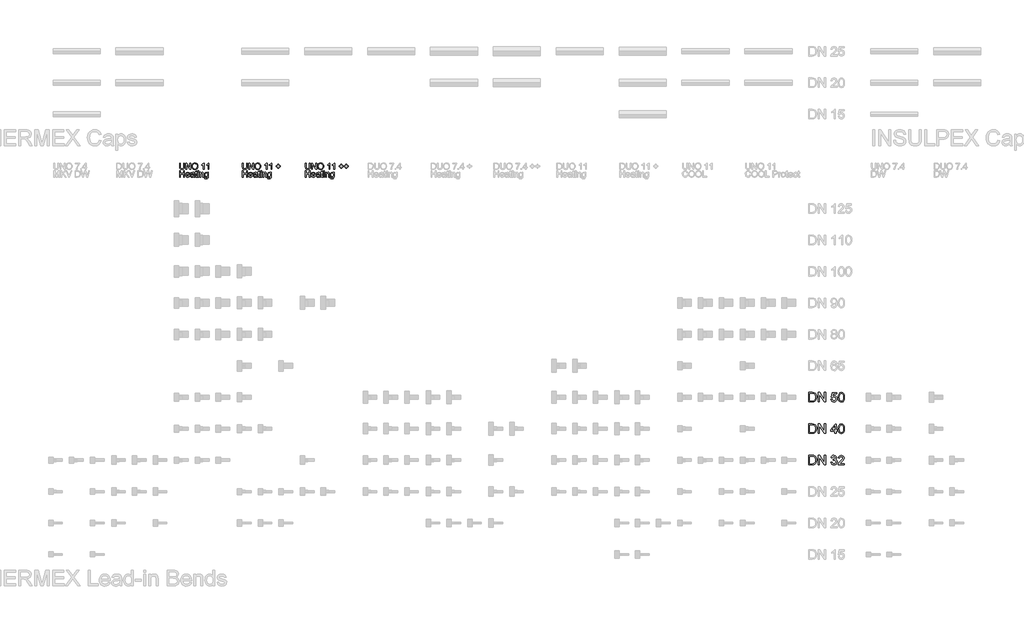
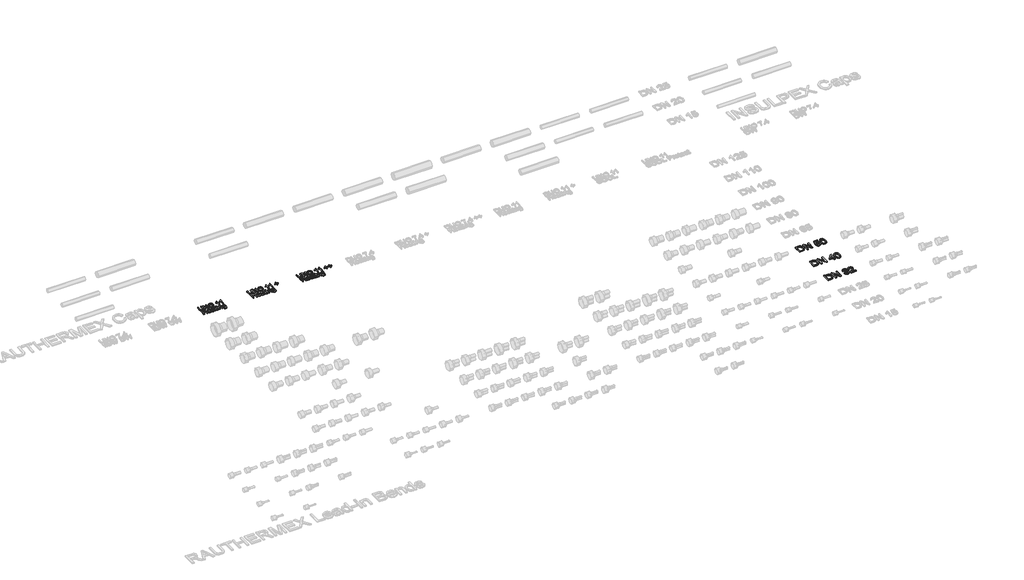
# One storey, part 15 of 44: 6 proxies.
"""IFC4 building model written with IfcOpenShell, lengths in millimetres."""

import ifcopenshell
import ifcopenshell.guid

model = None  # the IFC model being written
_history = None  # IfcOwnerHistory: only IFC2X3 demands one
_inside = {}  # id of a spatial element -> (the spatial element, [elements in it])
_under = {}  # id of a project, library or spatial element -> (it, [spatial elements below it])
_declared = {}  # id of a project -> (the project, [libraries it declares])
_typed = {}  # id of a type object -> (the type object, [elements of that type])
_made_of = {}  # id of a material, layer set ... -> (it, [elements and type objects made of it])


def new_model(schema):
    """Start an empty IFC model of exactly this schema.

    Asked for "IFC4X3", IfcOpenShell would pick the latest addendum, in which some entities
    have other attributes; the version numbers below select the first issue.
    IFC2X3 requires an IfcOwnerHistory on every rooted entity: one is made here for all.
    """
    global model, _history
    if schema == "IFC4X3":
        model = ifcopenshell.file(schema_version=(4, 3, 0, 0))
    else:
        model = ifcopenshell.file(schema=schema)
    _inside.clear()
    _under.clear()
    _declared.clear()
    _typed.clear()
    _made_of.clear()
    _history = None
    if model.schema == "IFC2X3":
        org = make("IfcOrganization", Name="unknown")
        user = make(
            "IfcPersonAndOrganization",
            ThePerson=make("IfcPerson", FamilyName="unknown"),
            TheOrganization=org,
        )
        app = make(
            "IfcApplication",
            ApplicationDeveloper=org,
            Version="unknown",
            ApplicationFullName="unknown",
            ApplicationIdentifier="unknown",
        )
        _history = make(
            "IfcOwnerHistory",
            OwningUser=user,
            OwningApplication=app,
            ChangeAction="ADDED",
            CreationDate=0,
        )
    return model


def make(cls, **values):
    """One entity of the class cls with the attributes given. An attribute that is None is left unset."""
    return model.create_entity(
        cls, **{name: value for name, value in values.items() if value is not None}
    )


def rooted(cls, **values):
    """An entity with a GlobalId (a new one), such as an element, a storey or a relation."""
    return make(cls, GlobalId=ifcopenshell.guid.new(), OwnerHistory=_history, **values)


def si_unit(unit_type, name, prefix=None):
    """IfcSIUnit, for example si_unit("LENGTHUNIT", "METRE", prefix="MILLI")."""
    return make("IfcSIUnit", UnitType=unit_type, Prefix=prefix, Name=name)


def assignment(units):
    """IfcUnitAssignment: the units of a project."""
    return None if units is None else make("IfcUnitAssignment", Units=units)


def point(xyz):
    """IfcCartesianPoint."""
    return None if xyz is None else make("IfcCartesianPoint", Coordinates=xyz)


def direction(xyz):
    """IfcDirection."""
    return None if xyz is None else make("IfcDirection", DirectionRatios=xyz)


def frame(location, z_axis=None, x_axis=None):
    """IfcAxis2Placement3D, a coordinate frame: its origin and axes. An axis left out is left unset."""
    return make(
        "IfcAxis2Placement3D",
        Location=point(location),
        Axis=direction(z_axis),
        RefDirection=direction(x_axis),
    )


def origin():
    """The frame at (0, 0, 0) with its axes left unset."""
    return frame((0.0, 0.0, 0.0))


def origin_with_axes():
    """The frame at (0, 0, 0) with the z axis (0, 0, 1) and the x axis (1, 0, 0) written out."""
    return frame((0.0, 0.0, 0.0), z_axis=(0.0, 0.0, 1.0), x_axis=(1.0, 0.0, 0.0))


def place(relative_to, where):
    """IfcLocalPlacement: puts the frame where relative to a parent placement (None: the world)."""
    return make(
        "IfcLocalPlacement", PlacementRelTo=relative_to, RelativePlacement=where
    )


def context(
    kind, dimensions, precision=None, world=None, true_north=None, identifier=None
):
    """IfcGeometricRepresentationContext, for example the 3D "Model" context."""
    return make(
        "IfcGeometricRepresentationContext",
        ContextIdentifier=identifier,
        ContextType=kind,
        CoordinateSpaceDimension=dimensions,
        Precision=precision,
        WorldCoordinateSystem=world,
        TrueNorth=true_north,
    )


def project(units=None, contexts=None):
    """IfcProject with its units and contexts."""
    return rooted(
        "IfcProject",
        Name="project",
        RepresentationContexts=contexts,
        UnitsInContext=assignment(units),
    )


def spatial(cls, under=None, at=None, **own):
    """A site, building, storey or space (cls), placed at a placement, below another one or the project."""
    s = rooted(cls, ObjectPlacement=at, **own)
    if under is not None:
        _under.setdefault(under.id(), (under, []))[1].append(s)
    return s


def polyline(points):
    """IfcPolyline through the points."""
    return make("IfcPolyline", Points=[point(p) for p in points])


def outline(outer, holes=None, kind="AREA"):
    """IfcArbitraryClosedProfileDef: a profile drawn as a closed curve; with holes, ...WithVoids."""
    if holes is None:
        return make("IfcArbitraryClosedProfileDef", ProfileType=kind, OuterCurve=outer)
    return make(
        "IfcArbitraryProfileDefWithVoids",
        ProfileType=kind,
        OuterCurve=outer,
        InnerCurves=holes,
    )


def extrude(swept, where, along, depth):
    """IfcExtrudedAreaSolid: the profile swept, set in the frame where, extruded along a direction by depth."""
    return make(
        "IfcExtrudedAreaSolid",
        SweptArea=swept,
        Position=where,
        ExtrudedDirection=direction(along),
        Depth=depth,
    )


def shape(context_of_items, identifier, shape_type, items):
    """IfcShapeRepresentation: the items that make up one representation, for example the "Body"."""
    return make(
        "IfcShapeRepresentation",
        ContextOfItems=context_of_items,
        RepresentationIdentifier=identifier,
        RepresentationType=shape_type,
        Items=items,
    )


def made_of(thing, what):
    """Note that an element or type object is made of a material, layer set ...; save() writes the relation."""
    if what is not None:
        _made_of.setdefault(what.id(), (what, []))[1].append(thing)
    return thing


def element(
    cls,
    number,
    at=None,
    inside=None,
    cuts=None,
    type_object=None,
    material=None,
    context=None,
    identifier="Body",
    shape_type=None,
    held_by="IfcProductDefinitionShape",
    body=None,
    shapes=None,
    **own,
):
    """One element of the class cls, such as IfcWall. Its Tag is "e" and its number.

    at: its placement. inside: the storey or other place that contains it. cuts: it is an
    opening in that element (IfcRelVoidsElement). A single representation is given by context,
    identifier, shape_type and body (its items); several are given by shapes. held_by: the class
    of the entity that holds the representations. save() writes the other relations.
    """
    e = rooted(cls, Tag="e%d" % number, ObjectPlacement=at, **own)
    if body is not None:
        shapes = [shape(context, identifier, shape_type, body)]
    if shapes is not None:
        e.Representation = make(held_by, Representations=shapes)
    if inside is not None:
        _inside.setdefault(inside.id(), (inside, []))[1].append(e)
    if cuts is not None:
        rooted(
            "IfcRelVoidsElement", RelatingBuildingElement=cuts, RelatedOpeningElement=e
        )
    if type_object is not None:
        _typed.setdefault(type_object.id(), (type_object, []))[1].append(e)
    return made_of(e, material)


def aggregate(whole, parts):
    """IfcRelAggregates: a whole, such as a stair, and the parts it consists of."""
    return rooted("IfcRelAggregates", RelatingObject=whole, RelatedObjects=parts)


def save(model, path):
    """Write the relations noted so far, then the file.

    IfcRelAggregates (storeys below a building ...), IfcRelContainedInSpatialStructure (elements
    in a storey), IfcRelDefinesByType, IfcRelAssociatesMaterial and IfcRelDeclares: one each for
    every whole, place, type object, material and project.
    """
    for whole, parts in _under.values():
        aggregate(whole, parts)
    for where, things in _inside.values():
        rooted(
            "IfcRelContainedInSpatialStructure",
            RelatedElements=things,
            RelatingStructure=where,
        )
    for kind, things in _typed.values():
        rooted("IfcRelDefinesByType", RelatedObjects=things, RelatingType=kind)
    for what, things in _made_of.values():
        rooted("IfcRelAssociatesMaterial", RelatedObjects=things, RelatingMaterial=what)
    for by, libraries in _declared.values():
        rooted("IfcRelDeclares", RelatingContext=by, RelatedDefinitions=libraries)
    model.write(path)


model = new_model("IFC4")

# Units and contexts
model_context = context("Model", 3, world=origin())
ifc_project = project(units=[si_unit("LENGTHUNIT", "METRE", prefix="MILLI")], contexts=[model_context])

# Site, building, storey
site = spatial("IfcSite", under=ifc_project)
building = spatial("IfcBuilding", under=site)
storey = spatial("IfcBuildingStorey", under=building, Name="REHAU Starting view", Elevation=0.0)

# Proxies
placement = place(None, origin())
element("IfcBuildingElementProxy", 1, Name="100", ObjectType="100", at=placement, inside=storey, context=model_context, shape_type="SweptSolid", body=[
    extrude(outline(polyline([(5076.9118625, 13222.431128), (5089.4689012, 13222.431128), (5089.4689012, 13164.477451), (5086.0598614, 13140.4547567), (5073.7726028, 13125.9847316), (5063.5086951, 13121.8000739), (5050.4734097, 13120.405188), (5027.529836, 13125.2612303), (5019.8901532, 13131.2055902), (5014.8011189, 13139.3265853), (5010.9874089, 13164.477451), (5010.9874089, 13222.431128), (5023.5444477, 13222.431128), (5023.5444477, 13164.9189094), (5026.0215198, 13145.7767829), (5034.5318566, 13136.2976902), (5049.2961874, 13132.9622268), (5062.067824, 13134.6115644), (5070.5597667, 13139.5595772), (5075.3238385, 13149.1980855), (5076.9118625, 13164.9189094), (5076.9118625, 13222.431128)])), origin_with_axes(), (0.0, 0.0, 1.0), 20.0),
    extrude(outline(polyline([(5111.4437191, 13121.9748178), (5111.4437191, 13222.431128), (5124.8836746, 13222.431128), (5177.3681726, 13142.8459897), (5177.3681726, 13222.431128), (5189.9252114, 13222.431128), (5189.9252114, 13121.9748178), (5176.4852558, 13121.9748178), (5124.0007578, 13201.5844816), (5124.0007578, 13121.9748178), (5111.4437191, 13121.9748178)])), origin_with_axes(), (0.0, 0.0, 1.0), 20.0),
    extrude(outline(polyline([(5207.1911397, 13170.8785977), (5210.5388658, 13193.0925389), (5220.5820443, 13209.8986147), (5235.9165921, 13220.4752221), (5255.1384264, 13224.0007578), (5268.3147332, 13222.3452889), (5280.1298766, 13217.3788819), (5289.9400631, 13209.4510249), (5297.1014993, 13198.9112058), (5301.479295, 13186.2683279), (5302.9385603, 13172.0312947), (5301.402653, 13157.6041891), (5296.794931, 13144.7835015), (5289.369846, 13134.2252883), (5279.3818499, 13126.5856055), (5267.667874, 13121.9502924), (5255.06485, 13120.405188), (5241.6862081, 13122.1127736), (5229.8036197, 13127.2355304), (5220.0179586, 13135.3105402), (5212.9300988, 13145.8748848), (5207.1911397, 13170.8785977)]), holes=[polyline([(5219.7481785, 13170.7559704), (5222.2589731, 13155.0412778), (5229.7913569, 13143.0667189), (5241.1129253, 13135.4883498), (5254.9912736, 13132.9622268), (5269.071957, 13135.5128753), (5280.4119195, 13143.1648208), (5287.889121, 13155.5072617), (5290.3815215, 13172.1293965), (5286.1140904, 13192.8534156), (5273.6428907, 13206.575414), (5255.2120028, 13211.4437191), (5241.7046022, 13209.0984714), (5230.2205526, 13202.0627282), (5222.366272, 13189.5455433), (5219.7481785, 13170.7559704)])]), origin_with_axes(), (0.0, 0.0, 1.0), 20.0),
    extrude(outline(polyline([(5401.8252406, 13121.9748178), (5389.2682018, 13121.9748178), (5389.2682018, 13200.2601064), (5377.3733507, 13191.7865578), (5364.1541243, 13185.4467247), (5364.1541243, 13197.3170505), (5382.5604868, 13209.0647488), (5393.7318367, 13222.431128), (5401.8252406, 13222.431128), (5401.8252406, 13121.9748178)])), origin_with_axes(), (0.0, 0.0, 1.0), 20.0),
    extrude(outline(polyline([(5478.7371031, 13121.9748178), (5466.1800643, 13121.9748178), (5466.1800643, 13200.2601064), (5454.2852131, 13191.7865578), (5441.0659868, 13185.4467247), (5441.0659868, 13197.3170505), (5459.4723492, 13209.0647488), (5470.6436992, 13222.431128), (5478.7371031, 13222.431128), (5478.7371031, 13121.9748178)])), origin_with_axes(), (0.0, 0.0, 1.0), 20.0),
    extrude(outline(polyline([(5010.9874089, 13000.0), (5010.9874089, 13100.4563101), (5023.5444477, 13100.4563101), (5023.5444477, 13059.6459342), (5076.9118625, 13059.6459342), (5076.9118625, 13100.4563101), (5089.4689012, 13100.4563101), (5089.4689012, 13000.0), (5076.9118625, 13000.0), (5076.9118625, 13047.0888954), (5023.5444477, 13047.0888954), (5023.5444477, 13000.0), (5010.9874089, 13000.0)])), origin_with_axes(), (0.0, 0.0, 1.0), 20.0),
    extrude(outline(polyline([(5161.5247213, 13021.9748178), (5173.8365055, 13020.405188), (5169.4004617, 13011.1284304), (5162.321799, 13004.1938547), (5152.7599328, 12999.8712413), (5140.8742787, 12998.4303702), (5126.1406048, 13000.9166393), (5114.803708, 13008.3754468), (5107.5748268, 13020.3224146), (5105.1651997, 13036.2731647), (5107.5993522, 13052.7604095), (5114.9018098, 13065.0905877), (5126.0854225, 13072.7793214), (5140.1630402, 13075.3422326), (5153.8022651, 13072.7854527), (5164.7007692, 13065.1151131), (5171.846877, 13052.8094604), (5174.2289129, 13036.3467411), (5174.1553365, 13032.9622268), (5117.7222385, 13032.9622268), (5119.8958079, 13023.5628418), (5124.9449883, 13016.6527916), (5132.2321175, 13012.4037546), (5141.1195333, 13010.9874089), (5153.4313175, 13013.6116338), (5161.5247213, 13021.9748178)]), holes=[polyline([(5117.7222385, 13045.5192655), (5161.6718741, 13045.5192655), (5156.6441535, 13056.8990819), (5149.3233018, 13061.3136659), (5140.1139892, 13062.7851938), (5124.6506827, 13058.088567), (5119.7854433, 13052.5979283), (5117.7222385, 13045.5192655)])]), origin_with_axes(), (0.0, 0.0, 1.0), 20.0),
    extrude(outline(polyline([(5233.8748471, 13009.4177791), (5221.697953, 13000.9074423), (5208.2457347, 12998.4303702), (5197.7519008, 12999.9202922), (5190.0110505, 13004.3900585), (5185.2377816, 13011.1774813), (5183.646692, 13019.6203731), (5186.0501877, 13029.5531869), (5192.3654953, 13036.7636741), (5201.157875, 13040.8839524), (5212.0226566, 13042.7724133), (5233.8012707, 13047.0888954), (5233.8748471, 13049.8847985), (5230.4167563, 13059.1554248), (5216.5353424, 13062.7851938), (5203.8311508, 13060.3694354), (5197.7733606, 13051.7977849), (5185.2163218, 13053.3674148), (5190.6487126, 13065.6301479), (5201.5870706, 13072.8161096), (5218.1540231, 13075.3422326), (5233.372075, 13073.1104152), (5241.968251, 13067.5063461), (5245.8187492, 13058.9837466), (5246.4318858, 13047.9963376), (5246.4318858, 13032.3736156), (5247.069548, 13010.5582133), (5249.5711455, 13000.0), (5237.0141068, 13000.0), (5233.8748471, 13009.4177791)]), holes=[polyline([(5233.8748471, 13034.5318566), (5213.6168119, 13030.6813584), (5202.8133439, 13028.6457447), (5197.9205134, 13025.3348067), (5196.2037308, 13020.5032899), (5199.9438644, 13013.7097357), (5210.9190106, 13010.9874089), (5223.6232021, 13013.9917785), (5231.8147079, 13021.2635793), (5233.8012707, 13030.975664), (5233.8748471, 13034.5318566)])]), origin_with_axes(), (0.0, 0.0, 1.0), 20.0),
    extrude(outline(polyline([(5290.3815215, 13010.4723741), (5291.9511514, 12999.632118), (5282.5578978, 12998.4303702), (5272.0364727, 13000.5150348), (5266.7880229, 13005.9842138), (5265.267444, 13020.2335097), (5265.267444, 13061.215564), (5255.8496649, 13061.215564), (5255.8496649, 13073.7726028), (5265.267444, 13073.7726028), (5265.267444, 13091.7007187), (5277.8244828, 13099.082884), (5277.8244828, 13073.7726028), (5290.3815215, 13073.7726028), (5290.3815215, 13061.215564), (5277.8244828, 13061.215564), (5277.8244828, 13020.6013917), (5278.4866703, 13014.1266686), (5280.6326487, 13011.8335375), (5284.9123425, 13010.9874089), (5290.3815215, 13010.4723741)])), origin_with_axes(), (0.0, 0.0, 1.0), 20.0),
    extrude(outline(polyline([(5302.9385603, 13087.8992714), (5302.9385603, 13100.4563101), (5315.4955991, 13100.4563101), (5315.4955991, 13087.8992714), (5302.9385603, 13087.8992714)])), origin_with_axes(), (0.0, 0.0, 1.0), 20.0),
    extrude(outline(polyline([(5302.9385603, 13000.0), (5302.9385603, 13073.7726028), (5315.4955991, 13073.7726028), (5315.4955991, 13000.0), (5302.9385603, 13000.0)])), origin_with_axes(), (0.0, 0.0, 1.0), 20.0),
    extrude(outline(polyline([(5334.3311572, 13000.0), (5334.3311572, 13073.7726028), (5346.888196, 13073.7726028), (5346.888196, 13063.4719069), (5356.4899161, 13072.3746512), (5369.5987778, 13075.3422326), (5381.4568408, 13072.9509996), (5389.5502447, 13066.6724803), (5393.3149038, 13057.4386422), (5393.9770914, 13045.2985363), (5393.9770914, 13000.0), (5381.4200526, 13000.0), (5381.4200526, 13043.6062792), (5379.9730501, 13054.7163154), (5374.8594904, 13060.5901646), (5366.2387889, 13062.7851938), (5352.6148924, 13057.8555751), (5348.3198701, 13050.712533), (5346.888196, 13039.1426443), (5346.888196, 13000.0), (5334.3311572, 13000.0)])), origin_with_axes(), (0.0, 0.0, 1.0), 20.0),
    extrude(outline(polyline([(5408.10376, 12993.7214806), (5420.6607988, 12992.1518508), (5424.7320262, 12985.5299749), (5436.9211829, 12982.7340717), (5449.7725273, 12985.8978569), (5455.9038939, 12994.7760757), (5456.7622852, 13009.4177791), (5447.9208546, 13002.3544448), (5437.1419121, 13000.0), (5424.1955316, 13002.7407209), (5414.5416949, 13010.9628835), (5408.5360213, 13023.0171502), (5406.5341301, 13037.2541834), (5410.127111, 13056.7151409), (5420.5259087, 13070.4861903), (5436.5287755, 13075.3422326), (5447.7307822, 13072.5953804), (5456.7622852, 13064.3548237), (5456.7622852, 13073.7726028), (5469.319324, 13073.7726028), (5469.319324, 13010.0799667), (5465.8857587, 12985.6893904), (5455.0087144, 12974.3463622), (5436.6759283, 12970.1770329), (5424.9926092, 12971.6454952), (5415.7924937, 12976.0508821), (5409.8910533, 12983.4054563), (5408.10376, 12993.7214806)]), holes=[polyline([(5419.0911689, 13038.1125747), (5420.4308725, 13026.5948026), (5424.4499833, 13018.6761426), (5430.4924451, 13014.0868147), (5437.9022016, 13012.5570388), (5445.2567758, 13014.0776177), (5451.3298944, 13018.6393544), (5455.4041875, 13026.4568468), (5456.7622852, 13037.7446927), (5455.3643336, 13048.6309341), (5451.1704789, 13056.4698863), (5445.0084555, 13061.2063669), (5437.7059979, 13062.7851938), (5430.5353646, 13061.2308924), (5424.5235597, 13056.5679881), (5420.4492666, 13048.8455319), (5419.0911689, 13038.1125747)])]), origin_with_axes(), (0.0, 0.0, 1.0), 20.0),
])
element("IfcBuildingElementProxy", 2, Name="100", ObjectType="100", at=placement, inside=storey, context=model_context, shape_type="SweptSolid", body=[
    extrude(outline(polyline([(6076.9118625, 13222.431128), (6089.4689012, 13222.431128), (6089.4689012, 13164.477451), (6086.0598614, 13140.4547567), (6073.7726028, 13125.9847316), (6063.5086951, 13121.8000739), (6050.4734097, 13120.405188), (6027.529836, 13125.2612303), (6019.8901532, 13131.2055902), (6014.8011189, 13139.3265853), (6010.9874089, 13164.477451), (6010.9874089, 13222.431128), (6023.5444477, 13222.431128), (6023.5444477, 13164.9189094), (6026.0215198, 13145.7767829), (6034.5318566, 13136.2976902), (6049.2961874, 13132.9622268), (6062.067824, 13134.6115644), (6070.5597667, 13139.5595772), (6075.3238385, 13149.1980855), (6076.9118625, 13164.9189094), (6076.9118625, 13222.431128)])), origin_with_axes(), (0.0, 0.0, 1.0), 20.0),
    extrude(outline(polyline([(6111.4437191, 13121.9748178), (6111.4437191, 13222.431128), (6124.8836746, 13222.431128), (6177.3681726, 13142.8459897), (6177.3681726, 13222.431128), (6189.9252114, 13222.431128), (6189.9252114, 13121.9748178), (6176.4852558, 13121.9748178), (6124.0007578, 13201.5844816), (6124.0007578, 13121.9748178), (6111.4437191, 13121.9748178)])), origin_with_axes(), (0.0, 0.0, 1.0), 20.0),
    extrude(outline(polyline([(6207.1911397, 13170.8785977), (6210.5388658, 13193.0925389), (6220.5820443, 13209.8986147), (6235.9165921, 13220.4752221), (6255.1384264, 13224.0007578), (6268.3147332, 13222.3452889), (6280.1298766, 13217.3788819), (6289.9400631, 13209.4510249), (6297.1014993, 13198.9112058), (6301.479295, 13186.2683279), (6302.9385603, 13172.0312947), (6301.402653, 13157.6041891), (6296.794931, 13144.7835015), (6289.369846, 13134.2252883), (6279.3818499, 13126.5856055), (6267.667874, 13121.9502924), (6255.06485, 13120.405188), (6241.6862081, 13122.1127736), (6229.8036197, 13127.2355304), (6220.0179586, 13135.3105402), (6212.9300988, 13145.8748848), (6207.1911397, 13170.8785977)]), holes=[polyline([(6219.7481785, 13170.7559704), (6222.2589731, 13155.0412778), (6229.7913569, 13143.0667189), (6241.1129253, 13135.4883498), (6254.9912736, 13132.9622268), (6269.071957, 13135.5128753), (6280.4119195, 13143.1648208), (6287.889121, 13155.5072617), (6290.3815215, 13172.1293965), (6286.1140904, 13192.8534156), (6273.6428907, 13206.575414), (6255.2120028, 13211.4437191), (6241.7046022, 13209.0984714), (6230.2205526, 13202.0627282), (6222.366272, 13189.5455433), (6219.7481785, 13170.7559704)])]), origin_with_axes(), (0.0, 0.0, 1.0), 20.0),
    extrude(outline(polyline([(6401.8252406, 13121.9748178), (6389.2682018, 13121.9748178), (6389.2682018, 13200.2601064), (6377.3733507, 13191.7865578), (6364.1541243, 13185.4467247), (6364.1541243, 13197.3170505), (6382.5604868, 13209.0647488), (6393.7318367, 13222.431128), (6401.8252406, 13222.431128), (6401.8252406, 13121.9748178)])), origin_with_axes(), (0.0, 0.0, 1.0), 20.0),
    extrude(outline(polyline([(6478.7371031, 13121.9748178), (6466.1800643, 13121.9748178), (6466.1800643, 13200.2601064), (6454.2852131, 13191.7865578), (6441.0659868, 13185.4467247), (6441.0659868, 13197.3170505), (6459.4723492, 13209.0647488), (6470.6436992, 13222.431128), (6478.7371031, 13222.431128), (6478.7371031, 13121.9748178)])), origin_with_axes(), (0.0, 0.0, 1.0), 20.0),
    extrude(outline(polyline([(6576.0541535, 13137.6711163), (6576.0541535, 13164.3548237), (6549.3704461, 13164.3548237), (6549.3704461, 13176.9118625), (6576.0541535, 13176.9118625), (6576.0541535, 13203.5955698), (6588.6111923, 13203.5955698), (6588.6111923, 13176.9118625), (6615.2948997, 13176.9118625), (6615.2948997, 13164.3548237), (6588.6111923, 13164.3548237), (6588.6111923, 13137.6711163), (6576.0541535, 13137.6711163)])), origin_with_axes(), (0.0, 0.0, 1.0), 20.0),
    extrude(outline(polyline([(6010.9874089, 13000.0), (6010.9874089, 13100.4563101), (6023.5444477, 13100.4563101), (6023.5444477, 13059.6459342), (6076.9118625, 13059.6459342), (6076.9118625, 13100.4563101), (6089.4689012, 13100.4563101), (6089.4689012, 13000.0), (6076.9118625, 13000.0), (6076.9118625, 13047.0888954), (6023.5444477, 13047.0888954), (6023.5444477, 13000.0), (6010.9874089, 13000.0)])), origin_with_axes(), (0.0, 0.0, 1.0), 20.0),
    extrude(outline(polyline([(6161.5247213, 13021.9748178), (6173.8365055, 13020.405188), (6169.4004617, 13011.1284304), (6162.321799, 13004.1938547), (6152.7599328, 12999.8712413), (6140.8742787, 12998.4303702), (6126.1406048, 13000.9166393), (6114.803708, 13008.3754468), (6107.5748268, 13020.3224146), (6105.1651997, 13036.2731647), (6107.5993522, 13052.7604095), (6114.9018098, 13065.0905877), (6126.0854225, 13072.7793214), (6140.1630402, 13075.3422326), (6153.8022651, 13072.7854527), (6164.7007692, 13065.1151131), (6171.846877, 13052.8094604), (6174.2289129, 13036.3467411), (6174.1553365, 13032.9622268), (6117.7222385, 13032.9622268), (6119.8958079, 13023.5628418), (6124.9449883, 13016.6527916), (6132.2321175, 13012.4037546), (6141.1195333, 13010.9874089), (6153.4313175, 13013.6116338), (6161.5247213, 13021.9748178)]), holes=[polyline([(6117.7222385, 13045.5192655), (6161.6718741, 13045.5192655), (6156.6441535, 13056.8990819), (6149.3233018, 13061.3136659), (6140.1139892, 13062.7851938), (6124.6506827, 13058.088567), (6119.7854433, 13052.5979283), (6117.7222385, 13045.5192655)])]), origin_with_axes(), (0.0, 0.0, 1.0), 20.0),
    extrude(outline(polyline([(6233.8748471, 13009.4177791), (6221.697953, 13000.9074423), (6208.2457347, 12998.4303702), (6197.7519008, 12999.9202922), (6190.0110505, 13004.3900585), (6185.2377816, 13011.1774813), (6183.646692, 13019.6203731), (6186.0501877, 13029.5531869), (6192.3654953, 13036.7636741), (6201.157875, 13040.8839524), (6212.0226566, 13042.7724133), (6233.8012707, 13047.0888954), (6233.8748471, 13049.8847985), (6230.4167563, 13059.1554248), (6216.5353424, 13062.7851938), (6203.8311508, 13060.3694354), (6197.7733606, 13051.7977849), (6185.2163218, 13053.3674148), (6190.6487126, 13065.6301479), (6201.5870706, 13072.8161096), (6218.1540231, 13075.3422326), (6233.372075, 13073.1104152), (6241.968251, 13067.5063461), (6245.8187492, 13058.9837466), (6246.4318858, 13047.9963376), (6246.4318858, 13032.3736156), (6247.069548, 13010.5582133), (6249.5711455, 13000.0), (6237.0141068, 13000.0), (6233.8748471, 13009.4177791)]), holes=[polyline([(6233.8748471, 13034.5318566), (6213.6168119, 13030.6813584), (6202.8133439, 13028.6457447), (6197.9205134, 13025.3348067), (6196.2037308, 13020.5032899), (6199.9438644, 13013.7097357), (6210.9190106, 13010.9874089), (6223.6232021, 13013.9917785), (6231.8147079, 13021.2635793), (6233.8012707, 13030.975664), (6233.8748471, 13034.5318566)])]), origin_with_axes(), (0.0, 0.0, 1.0), 20.0),
    extrude(outline(polyline([(6290.3815215, 13010.4723741), (6291.9511514, 12999.632118), (6282.5578978, 12998.4303702), (6272.0364727, 13000.5150348), (6266.7880229, 13005.9842138), (6265.267444, 13020.2335097), (6265.267444, 13061.215564), (6255.8496649, 13061.215564), (6255.8496649, 13073.7726028), (6265.267444, 13073.7726028), (6265.267444, 13091.7007187), (6277.8244828, 13099.082884), (6277.8244828, 13073.7726028), (6290.3815215, 13073.7726028), (6290.3815215, 13061.215564), (6277.8244828, 13061.215564), (6277.8244828, 13020.6013917), (6278.4866703, 13014.1266686), (6280.6326487, 13011.8335375), (6284.9123425, 13010.9874089), (6290.3815215, 13010.4723741)])), origin_with_axes(), (0.0, 0.0, 1.0), 20.0),
    extrude(outline(polyline([(6302.9385603, 13087.8992714), (6302.9385603, 13100.4563101), (6315.4955991, 13100.4563101), (6315.4955991, 13087.8992714), (6302.9385603, 13087.8992714)])), origin_with_axes(), (0.0, 0.0, 1.0), 20.0),
    extrude(outline(polyline([(6302.9385603, 13000.0), (6302.9385603, 13073.7726028), (6315.4955991, 13073.7726028), (6315.4955991, 13000.0), (6302.9385603, 13000.0)])), origin_with_axes(), (0.0, 0.0, 1.0), 20.0),
    extrude(outline(polyline([(6334.3311572, 13000.0), (6334.3311572, 13073.7726028), (6346.888196, 13073.7726028), (6346.888196, 13063.4719069), (6356.4899161, 13072.3746512), (6369.5987778, 13075.3422326), (6381.4568408, 13072.9509996), (6389.5502447, 13066.6724803), (6393.3149038, 13057.4386422), (6393.9770914, 13045.2985363), (6393.9770914, 13000.0), (6381.4200526, 13000.0), (6381.4200526, 13043.6062792), (6379.9730501, 13054.7163154), (6374.8594904, 13060.5901646), (6366.2387889, 13062.7851938), (6352.6148924, 13057.8555751), (6348.3198701, 13050.712533), (6346.888196, 13039.1426443), (6346.888196, 13000.0), (6334.3311572, 13000.0)])), origin_with_axes(), (0.0, 0.0, 1.0), 20.0),
    extrude(outline(polyline([(6408.10376, 12993.7214806), (6420.6607988, 12992.1518508), (6424.7320262, 12985.5299749), (6436.9211829, 12982.7340717), (6449.7725273, 12985.8978569), (6455.9038939, 12994.7760757), (6456.7622852, 13009.4177791), (6447.9208546, 13002.3544448), (6437.1419121, 13000.0), (6424.1955316, 13002.7407209), (6414.5416949, 13010.9628835), (6408.5360213, 13023.0171502), (6406.5341301, 13037.2541834), (6410.127111, 13056.7151409), (6420.5259087, 13070.4861903), (6436.5287755, 13075.3422326), (6447.7307822, 13072.5953804), (6456.7622852, 13064.3548237), (6456.7622852, 13073.7726028), (6469.319324, 13073.7726028), (6469.319324, 13010.0799667), (6465.8857587, 12985.6893904), (6455.0087144, 12974.3463622), (6436.6759283, 12970.1770329), (6424.9926092, 12971.6454952), (6415.7924937, 12976.0508821), (6409.8910533, 12983.4054563), (6408.10376, 12993.7214806)]), holes=[polyline([(6419.0911689, 13038.1125747), (6420.4308725, 13026.5948026), (6424.4499833, 13018.6761426), (6430.4924451, 13014.0868147), (6437.9022016, 13012.5570388), (6445.2567758, 13014.0776177), (6451.3298944, 13018.6393544), (6455.4041875, 13026.4568468), (6456.7622852, 13037.7446927), (6455.3643336, 13048.6309341), (6451.1704789, 13056.4698863), (6445.0084555, 13061.2063669), (6437.7059979, 13062.7851938), (6430.5353646, 13061.2308924), (6424.5235597, 13056.5679881), (6420.4492666, 13048.8455319), (6419.0911689, 13038.1125747)])]), origin_with_axes(), (0.0, 0.0, 1.0), 20.0),
])
element("IfcBuildingElementProxy", 3, Name="100", ObjectType="100", at=placement, inside=storey, context=model_context, shape_type="SweptSolid", body=[
    extrude(outline(polyline([(7076.9118625, 13222.431128), (7089.4689012, 13222.431128), (7089.4689012, 13164.477451), (7086.0598614, 13140.4547567), (7073.7726028, 13125.9847316), (7063.5086951, 13121.8000739), (7050.4734097, 13120.405188), (7027.529836, 13125.2612303), (7019.8901532, 13131.2055902), (7014.8011189, 13139.3265853), (7010.9874089, 13164.477451), (7010.9874089, 13222.431128), (7023.5444477, 13222.431128), (7023.5444477, 13164.9189094), (7026.0215198, 13145.7767829), (7034.5318566, 13136.2976902), (7049.2961874, 13132.9622268), (7062.067824, 13134.6115644), (7070.5597667, 13139.5595772), (7075.3238385, 13149.1980855), (7076.9118625, 13164.9189094), (7076.9118625, 13222.431128)])), origin_with_axes(), (0.0, 0.0, 1.0), 20.0),
    extrude(outline(polyline([(7111.4437191, 13121.9748178), (7111.4437191, 13222.431128), (7124.8836746, 13222.431128), (7177.3681726, 13142.8459897), (7177.3681726, 13222.431128), (7189.9252114, 13222.431128), (7189.9252114, 13121.9748178), (7176.4852558, 13121.9748178), (7124.0007578, 13201.5844816), (7124.0007578, 13121.9748178), (7111.4437191, 13121.9748178)])), origin_with_axes(), (0.0, 0.0, 1.0), 20.0),
    extrude(outline(polyline([(7207.1911397, 13170.8785977), (7210.5388658, 13193.0925389), (7220.5820443, 13209.8986147), (7235.9165921, 13220.4752221), (7255.1384264, 13224.0007578), (7268.3147332, 13222.3452889), (7280.1298766, 13217.3788819), (7289.9400631, 13209.4510249), (7297.1014993, 13198.9112058), (7301.479295, 13186.2683279), (7302.9385603, 13172.0312947), (7301.402653, 13157.6041891), (7296.794931, 13144.7835015), (7289.369846, 13134.2252883), (7279.3818499, 13126.5856055), (7267.667874, 13121.9502924), (7255.06485, 13120.405188), (7241.6862081, 13122.1127736), (7229.8036197, 13127.2355304), (7220.0179586, 13135.3105402), (7212.9300988, 13145.8748848), (7207.1911397, 13170.8785977)]), holes=[polyline([(7219.7481785, 13170.7559704), (7222.2589731, 13155.0412778), (7229.7913569, 13143.0667189), (7241.1129253, 13135.4883498), (7254.9912736, 13132.9622268), (7269.071957, 13135.5128753), (7280.4119195, 13143.1648208), (7287.889121, 13155.5072617), (7290.3815215, 13172.1293965), (7286.1140904, 13192.8534156), (7273.6428907, 13206.575414), (7255.2120028, 13211.4437191), (7241.7046022, 13209.0984714), (7230.2205526, 13202.0627282), (7222.366272, 13189.5455433), (7219.7481785, 13170.7559704)])]), origin_with_axes(), (0.0, 0.0, 1.0), 20.0),
    extrude(outline(polyline([(7401.8252406, 13121.9748178), (7389.2682018, 13121.9748178), (7389.2682018, 13200.2601064), (7377.3733507, 13191.7865578), (7364.1541243, 13185.4467247), (7364.1541243, 13197.3170505), (7382.5604868, 13209.0647488), (7393.7318367, 13222.431128), (7401.8252406, 13222.431128), (7401.8252406, 13121.9748178)])), origin_with_axes(), (0.0, 0.0, 1.0), 20.0),
    extrude(outline(polyline([(7478.7371031, 13121.9748178), (7466.1800643, 13121.9748178), (7466.1800643, 13200.2601064), (7454.2852131, 13191.7865578), (7441.0659868, 13185.4467247), (7441.0659868, 13197.3170505), (7459.4723492, 13209.0647488), (7470.6436992, 13222.431128), (7478.7371031, 13222.431128), (7478.7371031, 13121.9748178)])), origin_with_axes(), (0.0, 0.0, 1.0), 20.0),
    extrude(outline(polyline([(7576.0541535, 13137.6711163), (7576.0541535, 13164.3548237), (7549.3704461, 13164.3548237), (7549.3704461, 13176.9118625), (7576.0541535, 13176.9118625), (7576.0541535, 13203.5955698), (7588.6111923, 13203.5955698), (7588.6111923, 13176.9118625), (7615.2948997, 13176.9118625), (7615.2948997, 13164.3548237), (7588.6111923, 13164.3548237), (7588.6111923, 13137.6711163), (7576.0541535, 13137.6711163)])), origin_with_axes(), (0.0, 0.0, 1.0), 20.0),
    extrude(outline(polyline([(7657.6749055, 13137.6711163), (7657.6749055, 13164.3548237), (7630.9911981, 13164.3548237), (7630.9911981, 13176.9118625), (7657.6749055, 13176.9118625), (7657.6749055, 13203.5955698), (7670.2319443, 13203.5955698), (7670.2319443, 13176.9118625), (7696.9156517, 13176.9118625), (7696.9156517, 13164.3548237), (7670.2319443, 13164.3548237), (7670.2319443, 13137.6711163), (7657.6749055, 13137.6711163)])), origin_with_axes(), (0.0, 0.0, 1.0), 20.0),
    extrude(outline(polyline([(7010.9874089, 13000.0), (7010.9874089, 13100.4563101), (7023.5444477, 13100.4563101), (7023.5444477, 13059.6459342), (7076.9118625, 13059.6459342), (7076.9118625, 13100.4563101), (7089.4689012, 13100.4563101), (7089.4689012, 13000.0), (7076.9118625, 13000.0), (7076.9118625, 13047.0888954), (7023.5444477, 13047.0888954), (7023.5444477, 13000.0), (7010.9874089, 13000.0)])), origin_with_axes(), (0.0, 0.0, 1.0), 20.0),
    extrude(outline(polyline([(7161.5247213, 13021.9748178), (7173.8365055, 13020.405188), (7169.4004617, 13011.1284304), (7162.321799, 13004.1938547), (7152.7599328, 12999.8712413), (7140.8742787, 12998.4303702), (7126.1406048, 13000.9166393), (7114.803708, 13008.3754468), (7107.5748268, 13020.3224146), (7105.1651997, 13036.2731647), (7107.5993522, 13052.7604095), (7114.9018098, 13065.0905877), (7126.0854225, 13072.7793214), (7140.1630402, 13075.3422326), (7153.8022651, 13072.7854527), (7164.7007692, 13065.1151131), (7171.846877, 13052.8094604), (7174.2289129, 13036.3467411), (7174.1553365, 13032.9622268), (7117.7222385, 13032.9622268), (7119.8958079, 13023.5628418), (7124.9449883, 13016.6527916), (7132.2321175, 13012.4037546), (7141.1195333, 13010.9874089), (7153.4313175, 13013.6116338), (7161.5247213, 13021.9748178)]), holes=[polyline([(7117.7222385, 13045.5192655), (7161.6718741, 13045.5192655), (7156.6441535, 13056.8990819), (7149.3233018, 13061.3136659), (7140.1139892, 13062.7851938), (7124.6506827, 13058.088567), (7119.7854433, 13052.5979283), (7117.7222385, 13045.5192655)])]), origin_with_axes(), (0.0, 0.0, 1.0), 20.0),
    extrude(outline(polyline([(7233.8748471, 13009.4177791), (7221.697953, 13000.9074423), (7208.2457347, 12998.4303702), (7197.7519008, 12999.9202922), (7190.0110505, 13004.3900585), (7185.2377816, 13011.1774813), (7183.646692, 13019.6203731), (7186.0501877, 13029.5531869), (7192.3654953, 13036.7636741), (7201.157875, 13040.8839524), (7212.0226566, 13042.7724133), (7233.8012707, 13047.0888954), (7233.8748471, 13049.8847985), (7230.4167563, 13059.1554248), (7216.5353424, 13062.7851938), (7203.8311508, 13060.3694354), (7197.7733606, 13051.7977849), (7185.2163218, 13053.3674148), (7190.6487126, 13065.6301479), (7201.5870706, 13072.8161096), (7218.1540231, 13075.3422326), (7233.372075, 13073.1104152), (7241.968251, 13067.5063461), (7245.8187492, 13058.9837466), (7246.4318858, 13047.9963376), (7246.4318858, 13032.3736156), (7247.069548, 13010.5582133), (7249.5711455, 13000.0), (7237.0141068, 13000.0), (7233.8748471, 13009.4177791)]), holes=[polyline([(7233.8748471, 13034.5318566), (7213.6168119, 13030.6813584), (7202.8133439, 13028.6457447), (7197.9205134, 13025.3348067), (7196.2037308, 13020.5032899), (7199.9438644, 13013.7097357), (7210.9190106, 13010.9874089), (7223.6232021, 13013.9917785), (7231.8147079, 13021.2635793), (7233.8012707, 13030.975664), (7233.8748471, 13034.5318566)])]), origin_with_axes(), (0.0, 0.0, 1.0), 20.0),
    extrude(outline(polyline([(7290.3815215, 13010.4723741), (7291.9511514, 12999.632118), (7282.5578978, 12998.4303702), (7272.0364727, 13000.5150348), (7266.7880229, 13005.9842138), (7265.267444, 13020.2335097), (7265.267444, 13061.215564), (7255.8496649, 13061.215564), (7255.8496649, 13073.7726028), (7265.267444, 13073.7726028), (7265.267444, 13091.7007187), (7277.8244828, 13099.082884), (7277.8244828, 13073.7726028), (7290.3815215, 13073.7726028), (7290.3815215, 13061.215564), (7277.8244828, 13061.215564), (7277.8244828, 13020.6013917), (7278.4866703, 13014.1266686), (7280.6326487, 13011.8335375), (7284.9123425, 13010.9874089), (7290.3815215, 13010.4723741)])), origin_with_axes(), (0.0, 0.0, 1.0), 20.0),
    extrude(outline(polyline([(7302.9385603, 13087.8992714), (7302.9385603, 13100.4563101), (7315.4955991, 13100.4563101), (7315.4955991, 13087.8992714), (7302.9385603, 13087.8992714)])), origin_with_axes(), (0.0, 0.0, 1.0), 20.0),
    extrude(outline(polyline([(7302.9385603, 13000.0), (7302.9385603, 13073.7726028), (7315.4955991, 13073.7726028), (7315.4955991, 13000.0), (7302.9385603, 13000.0)])), origin_with_axes(), (0.0, 0.0, 1.0), 20.0),
    extrude(outline(polyline([(7334.3311572, 13000.0), (7334.3311572, 13073.7726028), (7346.888196, 13073.7726028), (7346.888196, 13063.4719069), (7356.4899161, 13072.3746512), (7369.5987778, 13075.3422326), (7381.4568408, 13072.9509996), (7389.5502447, 13066.6724803), (7393.3149038, 13057.4386422), (7393.9770914, 13045.2985363), (7393.9770914, 13000.0), (7381.4200526, 13000.0), (7381.4200526, 13043.6062792), (7379.9730501, 13054.7163154), (7374.8594904, 13060.5901646), (7366.2387889, 13062.7851938), (7352.6148924, 13057.8555751), (7348.3198701, 13050.712533), (7346.888196, 13039.1426443), (7346.888196, 13000.0), (7334.3311572, 13000.0)])), origin_with_axes(), (0.0, 0.0, 1.0), 20.0),
    extrude(outline(polyline([(7408.10376, 12993.7214806), (7420.6607988, 12992.1518508), (7424.7320262, 12985.5299749), (7436.9211829, 12982.7340717), (7449.7725273, 12985.8978569), (7455.9038939, 12994.7760757), (7456.7622852, 13009.4177791), (7447.9208546, 13002.3544448), (7437.1419121, 13000.0), (7424.1955316, 13002.7407209), (7414.5416949, 13010.9628835), (7408.5360213, 13023.0171502), (7406.5341301, 13037.2541834), (7410.127111, 13056.7151409), (7420.5259087, 13070.4861903), (7436.5287755, 13075.3422326), (7447.7307822, 13072.5953804), (7456.7622852, 13064.3548237), (7456.7622852, 13073.7726028), (7469.319324, 13073.7726028), (7469.319324, 13010.0799667), (7465.8857587, 12985.6893904), (7455.0087144, 12974.3463622), (7436.6759283, 12970.1770329), (7424.9926092, 12971.6454952), (7415.7924937, 12976.0508821), (7409.8910533, 12983.4054563), (7408.10376, 12993.7214806)]), holes=[polyline([(7419.0911689, 13038.1125747), (7420.4308725, 13026.5948026), (7424.4499833, 13018.6761426), (7430.4924451, 13014.0868147), (7437.9022016, 13012.5570388), (7445.2567758, 13014.0776177), (7451.3298944, 13018.6393544), (7455.4041875, 13026.4568468), (7456.7622852, 13037.7446927), (7455.3643336, 13048.6309341), (7451.1704789, 13056.4698863), (7445.0084555, 13061.2063669), (7437.7059979, 13062.7851938), (7430.5353646, 13061.2308924), (7424.5235597, 13056.5679881), (7420.4492666, 13048.8455319), (7419.0911689, 13038.1125747)])]), origin_with_axes(), (0.0, 0.0, 1.0), 20.0),
])
element("IfcBuildingElementProxy", 4, Name="150", ObjectType="150", at=placement, inside=storey, context=model_context, shape_type="SweptSolid", body=[
    extrude(outline(polyline([(15016.4811134, 8425.0), (15016.4811134, 8575.6844652), (15068.4628393, 8575.6844652), (15095.3550131, 8573.5139615), (15117.5015093, 8562.735019), (15127.9217668, 8551.2571007), (15135.343786, 8536.9832793), (15139.7859611, 8520.1894663), (15141.2666861, 8501.151573), (15137.2567724, 8470.7461261), (15126.9560765, 8448.8019651), (15113.1972899, 8435.135149), (15095.1894663, 8427.575174), (15070.9644369, 8425.0), (15016.4811134, 8425.0)]), holes=[polyline([(15035.3166715, 8443.8355582), (15068.6467803, 8443.8355582), (15092.8902038, 8446.5578849), (15106.8697196, 8454.2466186), (15118.3292437, 8472.9534181), (15122.431128, 8501.4458786), (15120.4215726, 8521.9736939), (15114.3929064, 8537.1304321), (15105.4855636, 8547.5414926), (15094.8399784, 8553.8322747), (15068.1317455, 8556.8489071), (15035.3166715, 8556.8489071), (15035.3166715, 8443.8355582)])]), origin_with_axes(), (0.0, 0.0, 1.0), 20.0),
    extrude(outline(polyline([(15167.1655786, 8425.0), (15167.1655786, 8575.6844652), (15187.3255119, 8575.6844652), (15266.0522589, 8456.3067578), (15266.0522589, 8575.6844652), (15284.8878171, 8575.6844652), (15284.8878171, 8425.0), (15264.7278837, 8425.0), (15186.0011368, 8544.4144956), (15186.0011368, 8425.0), (15167.1655786, 8425.0)])), origin_with_axes(), (0.0, 0.0, 1.0), 20.0),
    extrude(outline(polyline([(15369.6478288, 8465.0255611), (15388.4833869, 8467.3800058), (15392.7002343, 8455.5434026), (15398.8760533, 8447.5511663), (15407.3143465, 8442.9986266), (15418.3186167, 8441.4811134), (15431.2312747, 8443.5688437), (15441.2008768, 8449.8320347), (15447.5744324, 8459.1762374), (15449.6989509, 8470.5070028), (15447.5928265, 8481.2629526), (15441.2744532, 8489.9863544), (15431.7095213, 8495.7667003), (15419.8637211, 8497.6934822), (15406.6567575, 8495.6333431), (15408.7536848, 8514.4689012), (15411.7703172, 8514.248172), (15433.1442611, 8519.6560374), (15440.2627777, 8526.5170366), (15442.6356166, 8536.2843035), (15440.9157683, 8544.4190942), (15435.7562233, 8551.0179774), (15427.8835486, 8555.3911747), (15418.0243111, 8556.8489071), (15408.1466795, 8555.3773791), (15400.0716698, 8550.9627951), (15394.1763608, 8543.6051552), (15390.8378317, 8533.3044594), (15372.0022735, 8535.6589041), (15377.5480946, 8552.5722789), (15387.4165291, 8565.1998284), (15400.9177983, 8573.063306), (15417.3621235, 8575.6844652), (15440.0788367, 8570.5157232), (15455.9713389, 8556.3890546), (15461.4711747, 8537.3879495), (15456.2472504, 8520.0239194), (15440.7962066, 8507.5527197), (15452.5868246, 8502.7886479), (15461.324022, 8494.6768499), (15466.7318873, 8483.6587841), (15468.5345091, 8470.175909), (15464.9292655, 8451.8185974), (15454.1135348, 8436.4779182), (15437.7887713, 8426.103646), (15417.6564291, 8422.6455552), (15399.4462704, 8425.5978082), (15384.620626, 8434.4545673), (15374.310733, 8448.0018217), (15369.6478288, 8465.0255611)])), origin_with_axes(), (0.0, 0.0, 1.0), 20.0),
    extrude(outline(polyline([(15581.547858, 8443.8355582), (15581.547858, 8425.0), (15482.6611777, 8425.0), (15484.6845286, 8437.9862344), (15496.1256587, 8457.9806209), (15519.7068946, 8479.8144173), (15552.227663, 8511.1947515), (15558.325307, 8522.0104821), (15560.3578551, 8532.5319072), (15558.4402702, 8541.9634818), (15552.6875155, 8549.8039669), (15543.844552, 8555.087672), (15532.6563408, 8556.8489071), (15520.9071096, 8555.1290587), (15511.7790376, 8549.9695138), (15505.8883271, 8541.7749423), (15503.8511806, 8530.9500146), (15485.0156224, 8533.3044594), (15489.5819577, 8551.5238152), (15499.4549908, 8564.8319464), (15514.1196868, 8572.9713355), (15533.061011, 8575.6844652), (15552.140291, 8572.6678329), (15566.7773959, 8563.6179358), (15576.0894089, 8550.0982725), (15579.1934132, 8533.6723414), (15575.8456871, 8515.8116705), (15564.7172567, 8497.3439944), (15537.7331123, 8471.5370724), (15516.0648628, 8453.4188841), (15507.5667887, 8443.8355582), (15581.547858, 8443.8355582)])), origin_with_axes(), (0.0, 0.0, 1.0), 20.0),
])
element("IfcBuildingElementProxy", 5, Name="150", ObjectType="150", at=placement, inside=storey, context=model_context, shape_type="SweptSolid", body=[
    extrude(outline(polyline([(15016.4811134, 8925.0), (15016.4811134, 9075.6844652), (15068.4628393, 9075.6844652), (15095.3550131, 9073.5139615), (15117.5015093, 9062.735019), (15127.9217668, 9051.2571007), (15135.343786, 9036.9832793), (15139.7859611, 9020.1894663), (15141.2666861, 9001.151573), (15137.2567724, 8970.7461261), (15126.9560765, 8948.8019651), (15113.1972899, 8935.135149), (15095.1894663, 8927.575174), (15070.9644369, 8925.0), (15016.4811134, 8925.0)]), holes=[polyline([(15035.3166715, 8943.8355582), (15068.6467803, 8943.8355582), (15092.8902038, 8946.5578849), (15106.8697196, 8954.2466186), (15118.3292437, 8972.9534181), (15122.431128, 9001.4458786), (15120.4215726, 9021.9736939), (15114.3929064, 9037.1304321), (15105.4855636, 9047.5414926), (15094.8399784, 9053.8322747), (15068.1317455, 9056.8489071), (15035.3166715, 9056.8489071), (15035.3166715, 8943.8355582)])]), origin_with_axes(), (0.0, 0.0, 1.0), 20.0),
    extrude(outline(polyline([(15167.1655786, 8925.0), (15167.1655786, 9075.6844652), (15187.3255119, 9075.6844652), (15266.0522589, 8956.3067578), (15266.0522589, 9075.6844652), (15284.8878171, 9075.6844652), (15284.8878171, 8925.0), (15264.7278837, 8925.0), (15186.0011368, 9044.4144956), (15186.0011368, 8925.0), (15167.1655786, 8925.0)])), origin_with_axes(), (0.0, 0.0, 1.0), 20.0),
    extrude(outline(polyline([(15430.8633928, 8925.0), (15430.8633928, 8960.3166715), (15362.5844944, 8960.3166715), (15362.5844944, 8979.1522297), (15435.5722823, 9073.3300205), (15449.6989509, 9073.3300205), (15449.6989509, 8979.1522297), (15468.5345091, 8979.1522297), (15468.5345091, 8960.3166715), (15449.6989509, 8960.3166715), (15449.6989509, 8925.0), (15430.8633928, 8925.0)]), holes=[polyline([(15430.8633928, 8979.1522297), (15430.8633928, 9037.3511613), (15385.7610601, 8979.1522297), (15430.8633928, 8979.1522297)])]), origin_with_axes(), (0.0, 0.0, 1.0), 20.0),
    extrude(outline(polyline([(15485.0156224, 8999.128222), (15486.3997784, 9023.2474853), (15490.5522465, 9042.4831152), (15497.4316398, 9057.1294171), (15506.9965717, 9067.4806967), (15519.31602, 9073.6335231), (15534.4589626, 9075.6844652), (15556.4583059, 9070.8284229), (15571.6518323, 9056.830513), (15580.4810002, 9034.5368641), (15583.9023027, 8999.128222), (15582.5319423, 8975.1469145), (15578.420861, 8955.9572699), (15571.5828544, 8941.2971724), (15562.0317181, 8930.904506), (15549.6846787, 8924.7102929), (15534.4589626, 8922.6455552), (15514.8876404, 8926.2324047), (15500.0252078, 8936.992953), (15488.7680188, 8962.4779783), (15485.0156224, 8999.128222)]), holes=[polyline([(15503.8511806, 8999.1650102), (15506.0584726, 8969.536714), (15512.6803485, 8952.3888145), (15522.5395859, 8944.2080387), (15534.4589626, 8941.4811134), (15546.3783392, 8944.2172357), (15556.2375767, 8952.4256027), (15562.8594526, 8969.5826993), (15565.0667446, 8999.1650102), (15562.933029, 9028.1265203), (15556.5318823, 9045.407777), (15546.6910389, 9053.9886246), (15534.2382334, 9056.8489071), (15522.4476155, 9054.3289154), (15512.9746541, 9046.7689404), (15506.132049, 9028.4116288), (15503.8511806, 8999.1650102)])]), origin_with_axes(), (0.0, 0.0, 1.0), 20.0),
])
element("IfcBuildingElementProxy", 6, Name="150", ObjectType="150", at=placement, inside=storey, context=model_context, shape_type="SweptSolid", body=[
    extrude(outline(polyline([(15016.4811134, 9425.0), (15016.4811134, 9575.6844652), (15068.4628393, 9575.6844652), (15095.3550131, 9573.5139615), (15117.5015093, 9562.735019), (15127.9217668, 9551.2571007), (15135.343786, 9536.9832793), (15139.7859611, 9520.1894663), (15141.2666861, 9501.151573), (15137.2567724, 9470.7461261), (15126.9560765, 9448.8019651), (15113.1972899, 9435.135149), (15095.1894663, 9427.575174), (15070.9644369, 9425.0), (15016.4811134, 9425.0)]), holes=[polyline([(15035.3166715, 9443.8355582), (15068.6467803, 9443.8355582), (15092.8902038, 9446.5578849), (15106.8697196, 9454.2466186), (15118.3292437, 9472.9534181), (15122.431128, 9501.4458786), (15120.4215726, 9521.9736939), (15114.3929064, 9537.1304321), (15105.4855636, 9547.5414926), (15094.8399784, 9553.8322747), (15068.1317455, 9556.8489071), (15035.3166715, 9556.8489071), (15035.3166715, 9443.8355582)])]), origin_with_axes(), (0.0, 0.0, 1.0), 20.0),
    extrude(outline(polyline([(15167.1655786, 9425.0), (15167.1655786, 9575.6844652), (15187.3255119, 9575.6844652), (15266.0522589, 9456.3067578), (15266.0522589, 9575.6844652), (15284.8878171, 9575.6844652), (15284.8878171, 9425.0), (15264.7278837, 9425.0), (15186.0011368, 9544.4144956), (15186.0011368, 9425.0), (15167.1655786, 9425.0)])), origin_with_axes(), (0.0, 0.0, 1.0), 20.0),
    extrude(outline(polyline([(15369.6478288, 9465.0255611), (15388.4833869, 9467.3800058), (15391.9414777, 9456.072233), (15397.9747424, 9447.9742306), (15406.5555899, 9443.1043927), (15417.6564291, 9441.4811134), (15431.1576983, 9443.7389891), (15441.2744532, 9450.5126164), (15447.5928265, 9461.0202459), (15449.6989509, 9474.4801284), (15447.7261837, 9487.1536631), (15441.8078821, 9496.8473537), (15431.8980609, 9503.00018), (15417.9507347, 9505.0511222), (15401.414439, 9501.7769724), (15390.8378317, 9493.2788983), (15372.0022735, 9495.6333431), (15388.4833869, 9573.3300205), (15461.4711747, 9573.3300205), (15461.4711747, 9554.4944623), (15403.7137015, 9554.4944623), (15395.6570858, 9512.9973732), (15409.1123698, 9521.1643535), (15423.2114473, 9523.8866803), (15440.8100022, 9520.511363), (15455.4195159, 9510.3854111), (15465.2557608, 9494.9527614), (15468.5345091, 9475.6573507), (15465.582256, 9456.8217926), (15456.725497, 9440.7085612), (15439.766137, 9427.1613067), (15417.5828527, 9422.6455552), (15399.0829869, 9425.5472245), (15384.3447145, 9434.2522322), (15374.2417552, 9447.7489029), (15369.6478288, 9465.0255611)])), origin_with_axes(), (0.0, 0.0, 1.0), 20.0),
    extrude(outline(polyline([(15485.0156224, 9499.128222), (15486.3997784, 9523.2474853), (15490.5522465, 9542.4831152), (15497.4316398, 9557.1294171), (15506.9965717, 9567.4806967), (15519.31602, 9573.6335231), (15534.4589626, 9575.6844652), (15556.4583059, 9570.8284229), (15571.6518323, 9556.830513), (15580.4810002, 9534.5368641), (15583.9023027, 9499.128222), (15582.5319423, 9475.1469145), (15578.420861, 9455.9572699), (15571.5828544, 9441.2971724), (15562.0317181, 9430.904506), (15549.6846787, 9424.7102929), (15534.4589626, 9422.6455552), (15514.8876404, 9426.2324047), (15500.0252078, 9436.992953), (15488.7680188, 9462.4779783), (15485.0156224, 9499.128222)]), holes=[polyline([(15503.8511806, 9499.1650102), (15506.0584726, 9469.536714), (15512.6803485, 9452.3888145), (15522.5395859, 9444.2080387), (15534.4589626, 9441.4811134), (15546.3783392, 9444.2172357), (15556.2375767, 9452.4256027), (15562.8594526, 9469.5826993), (15565.0667446, 9499.1650102), (15562.933029, 9528.1265203), (15556.5318823, 9545.407777), (15546.6910389, 9553.9886246), (15534.2382334, 9556.8489071), (15522.4476155, 9554.3289154), (15512.9746541, 9546.7689404), (15506.132049, 9528.4116288), (15503.8511806, 9499.1650102)])]), origin_with_axes(), (0.0, 0.0, 1.0), 20.0),
])

save(model, "model.ifc")
